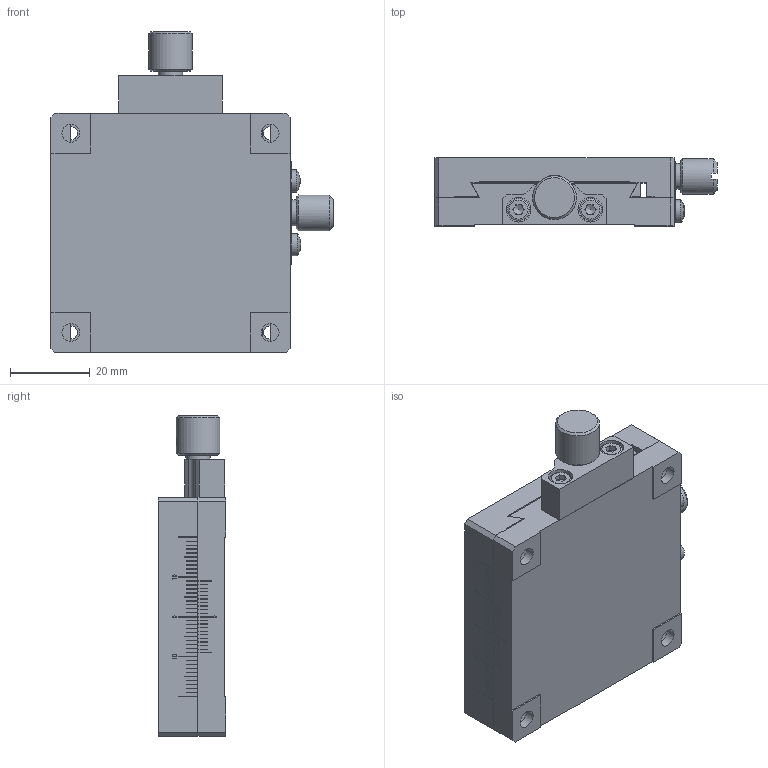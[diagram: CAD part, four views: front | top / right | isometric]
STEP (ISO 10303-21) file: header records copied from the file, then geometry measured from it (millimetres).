
FILE_DESCRIPTION (( 'STEP AP203' ), '1' );
FILE_NAME ('BFA60.STEP', '2024-07-31T06:18:31', ( 'Windows User' ), ( 'P R C' ), 'SwSTEP 2.0', 'SolidWorks 2024', '' );
FILE_SCHEMA (( 'CONFIG_CONTROL_DESIGN' ));
Length unit declared in the file: millimetre
Products named in the file (1): BFA60
Bounding box: 70.8 x 17 x 80.5 mm (x, y, z)
Volume: 57697.6 mm3; surface area: 28836.5 mm2
Topology: 14 solids, 14 shells, 638 faces, 1692 edges, 1106 vertices
Faces by surface type: plane 477, cylinder 84, bspline 44, cone 29, torus 2, sphere 2
Full cylindrical faces by diameter (mm): 2.5 x14, 3 x5, 3.2 x2, 3.3 x10, 4 x4, 4.1 x3, 4.5 x5, 5.5 x2, 5.6 x2, 5.8 x2, 6 x1, 6.094 x1, 6.2 x2, 6.5 x1, 6.8 x1, 8 x4, 8.4 x1, 9 x1, 9.9 x1, 11 x2
Entity records: 23841 total; most frequent: CARTESIAN_POINT 8979, ORIENTED_EDGE 3152, DIRECTION 2645, EDGE_CURVE 1576, VERTEX_POINT 1085, LINE 1005, VECTOR 1005, AXIS2_PLACEMENT_3D 820
